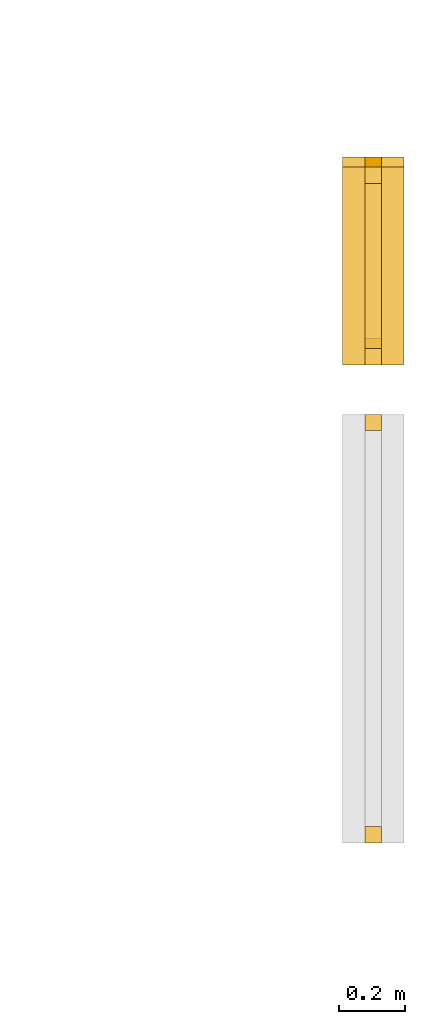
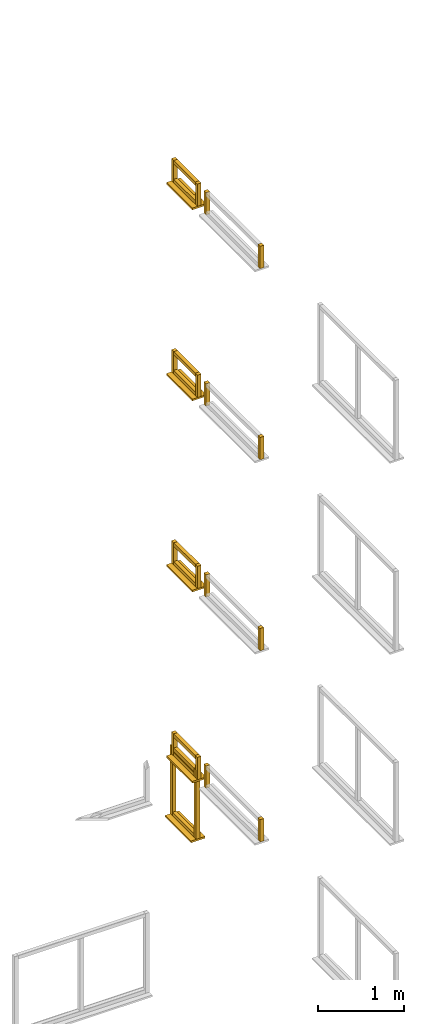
# Not in any storey, part 22 of 22: 33 windows.
"""IFC2X3 model written with IfcOpenShell, lengths in metres."""

from ifc_helpers import new_model, si_unit, frame, origin, place, context, project, faceted_brep, element, save


model = new_model("IFC2X3")

# Units and contexts
model_context = context("Model", 3, precision=1e-06, world=origin())
ifc_project = project(units=[si_unit("LENGTHUNIT", "METRE"), si_unit("PLANEANGLEUNIT", "RADIAN")], contexts=[model_context])

# Windows
placement = place(None, origin())
window_1_placement = place(placement, frame((59.736999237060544, 0.070162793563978, 1.81), z_axis=(0.0, 0.0, 1.0), x_axis=(0.0, 1.0, 0.0)))
element("IfcWindow", 1, at=window_1_placement, Name="windowSill", context=model_context, shape_type="Brep", body=[
    faceted_brep([(0.0, 0.186999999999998, 0.0), (0.6, 0.186999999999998, 0.0), (0.6, 0.0, 0.0), (0.0, 0.0, 0.0), (0.6, 0.0, 0.025), (0.6, 0.186999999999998, 0.025), (0.0, 0.186999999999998, 0.025), (0.0, 0.0, 0.025), (0.0, 0.186999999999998, 0.0), (0.0, 0.0, 0.0), (0.0, 0.0, 0.025), (0.0, 0.186999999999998, 0.025), (0.6, 0.186999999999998, 0.0), (0.0, 0.186999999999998, 0.0), (0.0, 0.186999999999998, 0.025), (0.6, 0.186999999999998, 0.025), (0.6, 0.0, 0.0), (0.6, 0.186999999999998, 0.0), (0.6, 0.186999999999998, 0.025), (0.6, 0.0, 0.025), (0.0, 0.0, 0.0), (0.6, 0.0, 0.0), (0.6, 0.0, 0.025), (0.0, 0.0, 0.025)], [[[0, 1, 2, 3]], [[4, 5, 6, 7]], [[8, 9, 10, 11]], [[12, 13, 14, 15]], [[16, 17, 18, 19]], [[20, 21, 22, 23]]]),
])
for number, where, z_axis, x_axis, name in (
    (2, (59.668499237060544, 0.620162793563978, 1.835), (0.0, 0.0, 1.0), (0.0, 1.0, 0.0), "rightFrame"),
    (3, (59.668499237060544, 0.070162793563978, 1.835), (0.0, 0.0, 1.0), (0.0, 1.0, 0.0), "leftFrame"),
):
    element("IfcWindow", number, at=place(placement, frame(where, z_axis=z_axis, x_axis=x_axis)), Name=name, context=model_context, shape_type="Brep", body=[
        faceted_brep([(0.0, 0.05, 0.0), (0.05, 0.05, 0.0), (0.05, 0.0, 0.0), (0.0, 0.0, 0.0), (0.05, 0.0, 0.315), (0.05, 0.05, 0.315), (0.0, 0.05, 0.315), (0.0, 0.0, 0.315), (0.0, 0.05, 0.0), (0.0, 0.0, 0.0), (0.0, 0.0, 0.315), (0.0, 0.05, 0.315), (0.05, 0.05, 0.0), (0.0, 0.05, 0.0), (0.0, 0.05, 0.315), (0.05, 0.05, 0.315), (0.05, 0.0, 0.0), (0.05, 0.05, 0.0), (0.05, 0.05, 0.315), (0.05, 0.0, 0.315), (0.0, 0.0, 0.0), (0.05, 0.0, 0.0), (0.05, 0.0, 0.315), (0.0, 0.0, 0.315)], [[[0, 1, 2, 3]], [[4, 5, 6, 7]], [[8, 9, 10, 11]], [[12, 13, 14, 15]], [[16, 17, 18, 19]], [[20, 21, 22, 23]]]),
    ])
for number, where, z_axis, x_axis, name in (
    (4, (59.668499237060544, 0.120162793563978, 2.1), (0.0, 0.0, 1.0), (0.0, 1.0, 0.0), "topFrame"),
    (5, (59.668499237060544, 0.120162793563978, 1.835), (0.0, 0.0, 1.0), (0.0, 1.0, 0.0), "bottomFrame"),
):
    element("IfcWindow", number, at=place(placement, frame(where, z_axis=z_axis, x_axis=x_axis)), Name=name, context=model_context, shape_type="Brep", body=[
        faceted_brep([(0.0, 0.05, 0.0), (0.5, 0.05, 0.0), (0.5, 0.0, 0.0), (0.0, 0.0, 0.0), (0.5, 0.0, 0.05), (0.5, 0.05, 0.05), (0.0, 0.05, 0.05), (0.0, 0.0, 0.05), (0.0, 0.05, 0.0), (0.0, 0.0, 0.0), (0.0, 0.0, 0.05), (0.0, 0.05, 0.05), (0.5, 0.05, 0.0), (0.0, 0.05, 0.0), (0.0, 0.05, 0.05), (0.5, 0.05, 0.05), (0.5, 0.0, 0.0), (0.5, 0.05, 0.0), (0.5, 0.05, 0.05), (0.5, 0.0, 0.05), (0.0, 0.0, 0.0), (0.5, 0.0, 0.0), (0.5, 0.0, 0.05), (0.0, 0.0, 0.05)], [[[0, 1, 2, 3]], [[4, 5, 6, 7]], [[8, 9, 10, 11]], [[12, 13, 14, 15]], [[16, 17, 18, 19]], [[20, 21, 22, 23]]]),
    ])
window_2_placement = place(placement, frame((59.736999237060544, 0.1, 0.95), z_axis=(0.0, 0.0, 1.0), x_axis=(0.0, 1.0, 0.0)))
element("IfcWindow", 6, at=window_2_placement, Name="windowSill", context=model_context, shape_type="Brep", body=[
    faceted_brep([(0.0, 0.186999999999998, 0.0), (0.6, 0.186999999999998, 0.0), (0.6, 0.0, 0.0), (0.0, 0.0, 0.0), (0.6, 0.0, 0.025), (0.6, 0.186999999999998, 0.025), (0.0, 0.186999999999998, 0.025), (0.0, 0.0, 0.025), (0.0, 0.186999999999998, 0.0), (0.0, 0.0, 0.0), (0.0, 0.0, 0.025), (0.0, 0.186999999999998, 0.025), (0.6, 0.186999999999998, 0.0), (0.0, 0.186999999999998, 0.0), (0.0, 0.186999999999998, 0.025), (0.6, 0.186999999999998, 0.025), (0.6, 0.0, 0.0), (0.6, 0.186999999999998, 0.0), (0.6, 0.186999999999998, 0.025), (0.6, 0.0, 0.025), (0.0, 0.0, 0.0), (0.6, 0.0, 0.0), (0.6, 0.0, 0.025), (0.0, 0.0, 0.025)], [[[0, 1, 2, 3]], [[4, 5, 6, 7]], [[8, 9, 10, 11]], [[12, 13, 14, 15]], [[16, 17, 18, 19]], [[20, 21, 22, 23]]]),
])
for number, where, z_axis, x_axis, name in (
    (7, (59.668499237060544, 0.65, 0.975), (0.0, 0.0, 1.0), (0.0, 1.0, 0.0), "rightFrame"),
    (8, (59.668499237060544, 0.1, 0.975), (0.0, 0.0, 1.0), (0.0, 1.0, 0.0), "leftFrame"),
):
    element("IfcWindow", number, at=place(placement, frame(where, z_axis=z_axis, x_axis=x_axis)), Name=name, context=model_context, shape_type="Brep", body=[
        faceted_brep([(0.0, 0.05, 0.0), (0.05, 0.05, 0.0), (0.05, 0.0, 0.0), (0.0, 0.0, 0.0), (0.05, 0.0, 0.975), (0.05, 0.05, 0.975), (0.0, 0.05, 0.975), (0.0, 0.0, 0.975), (0.0, 0.05, 0.0), (0.0, 0.0, 0.0), (0.0, 0.0, 0.975), (0.0, 0.05, 0.975), (0.05, 0.05, 0.0), (0.0, 0.05, 0.0), (0.0, 0.05, 0.975), (0.05, 0.05, 0.975), (0.05, 0.0, 0.0), (0.05, 0.05, 0.0), (0.05, 0.05, 0.975), (0.05, 0.0, 0.975), (0.0, 0.0, 0.0), (0.05, 0.0, 0.0), (0.05, 0.0, 0.975), (0.0, 0.0, 0.975)], [[[0, 1, 2, 3]], [[4, 5, 6, 7]], [[8, 9, 10, 11]], [[12, 13, 14, 15]], [[16, 17, 18, 19]], [[20, 21, 22, 23]]]),
    ])
for number, where, z_axis, x_axis, name in (
    (9, (59.668499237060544, 0.15, 1.9), (0.0, 0.0, 1.0), (0.0, 1.0, 0.0), "topFrame"),
    (10, (59.668499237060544, 0.15, 0.975), (0.0, 0.0, 1.0), (0.0, 1.0, 0.0), "bottomFrame"),
):
    element("IfcWindow", number, at=place(placement, frame(where, z_axis=z_axis, x_axis=x_axis)), Name=name, context=model_context, shape_type="Brep", body=[
        faceted_brep([(0.0, 0.05, 0.0), (0.5, 0.05, 0.0), (0.5, 0.0, 0.0), (0.0, 0.0, 0.0), (0.5, 0.0, 0.05), (0.5, 0.05, 0.05), (0.0, 0.05, 0.05), (0.0, 0.0, 0.05), (0.0, 0.05, 0.0), (0.0, 0.0, 0.0), (0.0, 0.0, 0.05), (0.0, 0.05, 0.05), (0.5, 0.05, 0.0), (0.0, 0.05, 0.0), (0.0, 0.05, 0.05), (0.5, 0.05, 0.05), (0.5, 0.0, 0.0), (0.5, 0.05, 0.0), (0.5, 0.05, 0.05), (0.5, 0.0, 0.05), (0.0, 0.0, 0.0), (0.5, 0.0, 0.0), (0.5, 0.0, 0.05), (0.0, 0.0, 0.05)], [[[0, 1, 2, 3]], [[4, 5, 6, 7]], [[8, 9, 10, 11]], [[12, 13, 14, 15]], [[16, 17, 18, 19]], [[20, 21, 22, 23]]]),
    ])
for number, where, z_axis, x_axis, name in (
    (11, (59.668499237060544, -1.379837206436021, 1.835), (0.0, 0.0, 1.0), (0.0, 1.0, 0.0), "leftFrame"),
    (12, (59.668499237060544, -0.129837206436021, 1.835), (0.0, 0.0, 1.0), (0.0, 1.0, 0.0), "rightFrame"),
):
    element("IfcWindow", number, at=place(placement, frame(where, z_axis=z_axis, x_axis=x_axis)), Name=name, context=model_context, shape_type="Brep", body=[
        faceted_brep([(0.0, 0.05, 0.0), (0.05, 0.05, 0.0), (0.05, 0.0, 0.0), (0.0, 0.0, 0.0), (0.05, 0.0, 0.315), (0.05, 0.05, 0.315), (0.0, 0.05, 0.315), (0.0, 0.0, 0.315), (0.0, 0.05, 0.0), (0.0, 0.0, 0.0), (0.0, 0.0, 0.315), (0.0, 0.05, 0.315), (0.05, 0.05, 0.0), (0.0, 0.05, 0.0), (0.0, 0.05, 0.315), (0.05, 0.05, 0.315), (0.05, 0.0, 0.0), (0.05, 0.05, 0.0), (0.05, 0.05, 0.315), (0.05, 0.0, 0.315), (0.0, 0.0, 0.0), (0.05, 0.0, 0.0), (0.05, 0.0, 0.315), (0.0, 0.0, 0.315)], [[[0, 1, 2, 3]], [[4, 5, 6, 7]], [[8, 9, 10, 11]], [[12, 13, 14, 15]], [[16, 17, 18, 19]], [[20, 21, 22, 23]]]),
    ])
window_3_placement = place(placement, frame((59.668499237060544, 0.120162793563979, 7.500000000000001), z_axis=(0.0, 0.0, 1.0), x_axis=(0.0, 1.0, 0.0)))
element("IfcWindow", 13, at=window_3_placement, Name="topFrame", context=model_context, shape_type="Brep", body=[
    faceted_brep([(0.0, 0.05, 0.0), (0.5, 0.05, 0.0), (0.5, 0.0, 0.0), (0.0, 0.0, 0.0), (0.5, 0.0, 0.05), (0.5, 0.05, 0.05), (0.0, 0.05, 0.05), (0.0, 0.0, 0.05), (0.0, 0.05, 0.0), (0.0, 0.0, 0.0), (0.0, 0.0, 0.05), (0.0, 0.05, 0.05), (0.5, 0.05, 0.0), (0.0, 0.05, 0.0), (0.0, 0.05, 0.05), (0.5, 0.05, 0.05), (0.5, 0.0, 0.0), (0.5, 0.05, 0.0), (0.5, 0.05, 0.05), (0.5, 0.0, 0.05), (0.0, 0.0, 0.0), (0.5, 0.0, 0.0), (0.5, 0.0, 0.05), (0.0, 0.0, 0.05)], [[[0, 1, 2, 3]], [[4, 5, 6, 7]], [[8, 9, 10, 11]], [[12, 13, 14, 15]], [[16, 17, 18, 19]], [[20, 21, 22, 23]]]),
])
window_4_placement = place(placement, frame((59.736999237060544, 0.070162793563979, 4.510000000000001), z_axis=(0.0, 0.0, 1.0), x_axis=(0.0, 1.0, 0.0)))
element("IfcWindow", 14, at=window_4_placement, Name="windowSill", context=model_context, shape_type="Brep", body=[
    faceted_brep([(0.0, 0.186999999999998, 0.0), (0.6, 0.186999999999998, 0.0), (0.6, 0.0, 0.0), (0.0, 0.0, 0.0), (0.6, 0.0, 0.025), (0.6, 0.186999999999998, 0.025), (0.0, 0.186999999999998, 0.025), (0.0, 0.0, 0.025), (0.0, 0.186999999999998, 0.0), (0.0, 0.0, 0.0), (0.0, 0.0, 0.025), (0.0, 0.186999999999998, 0.025), (0.6, 0.186999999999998, 0.0), (0.0, 0.186999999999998, 0.0), (0.0, 0.186999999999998, 0.025), (0.6, 0.186999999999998, 0.025), (0.6, 0.0, 0.0), (0.6, 0.186999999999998, 0.0), (0.6, 0.186999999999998, 0.025), (0.6, 0.0, 0.025), (0.0, 0.0, 0.0), (0.6, 0.0, 0.0), (0.6, 0.0, 0.025), (0.0, 0.0, 0.025)], [[[0, 1, 2, 3]], [[4, 5, 6, 7]], [[8, 9, 10, 11]], [[12, 13, 14, 15]], [[16, 17, 18, 19]], [[20, 21, 22, 23]]]),
])
for number, where, z_axis, x_axis, name in (
    (15, (59.668499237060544, 0.620162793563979, 4.535000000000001), (0.0, 0.0, 1.0), (0.0, 1.0, 0.0), "rightFrame"),
    (16, (59.668499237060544, 0.070162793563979, 4.535000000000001), (0.0, 0.0, 1.0), (0.0, 1.0, 0.0), "leftFrame"),
):
    element("IfcWindow", number, at=place(placement, frame(where, z_axis=z_axis, x_axis=x_axis)), Name=name, context=model_context, shape_type="Brep", body=[
        faceted_brep([(0.0, 0.05, 0.0), (0.05, 0.05, 0.0), (0.05, 0.0, 0.0), (0.0, 0.0, 0.0), (0.05, 0.0, 0.315), (0.05, 0.05, 0.315), (0.0, 0.05, 0.315), (0.0, 0.0, 0.315), (0.0, 0.05, 0.0), (0.0, 0.0, 0.0), (0.0, 0.0, 0.315), (0.0, 0.05, 0.315), (0.05, 0.05, 0.0), (0.0, 0.05, 0.0), (0.0, 0.05, 0.315), (0.05, 0.05, 0.315), (0.05, 0.0, 0.0), (0.05, 0.05, 0.0), (0.05, 0.05, 0.315), (0.05, 0.0, 0.315), (0.0, 0.0, 0.0), (0.05, 0.0, 0.0), (0.05, 0.0, 0.315), (0.0, 0.0, 0.315)], [[[0, 1, 2, 3]], [[4, 5, 6, 7]], [[8, 9, 10, 11]], [[12, 13, 14, 15]], [[16, 17, 18, 19]], [[20, 21, 22, 23]]]),
    ])
for number, where, z_axis, x_axis, name in (
    (17, (59.668499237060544, 0.120162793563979, 4.800000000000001), (0.0, 0.0, 1.0), (0.0, 1.0, 0.0), "topFrame"),
    (18, (59.668499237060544, 0.120162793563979, 4.535000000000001), (0.0, 0.0, 1.0), (0.0, 1.0, 0.0), "bottomFrame"),
):
    element("IfcWindow", number, at=place(placement, frame(where, z_axis=z_axis, x_axis=x_axis)), Name=name, context=model_context, shape_type="Brep", body=[
        faceted_brep([(0.0, 0.05, 0.0), (0.5, 0.05, 0.0), (0.5, 0.0, 0.0), (0.0, 0.0, 0.0), (0.5, 0.0, 0.05), (0.5, 0.05, 0.05), (0.0, 0.05, 0.05), (0.0, 0.0, 0.05), (0.0, 0.05, 0.0), (0.0, 0.0, 0.0), (0.0, 0.0, 0.05), (0.0, 0.05, 0.05), (0.5, 0.05, 0.0), (0.0, 0.05, 0.0), (0.0, 0.05, 0.05), (0.5, 0.05, 0.05), (0.5, 0.0, 0.0), (0.5, 0.05, 0.0), (0.5, 0.05, 0.05), (0.5, 0.0, 0.05), (0.0, 0.0, 0.0), (0.5, 0.0, 0.0), (0.5, 0.0, 0.05), (0.0, 0.0, 0.05)], [[[0, 1, 2, 3]], [[4, 5, 6, 7]], [[8, 9, 10, 11]], [[12, 13, 14, 15]], [[16, 17, 18, 19]], [[20, 21, 22, 23]]]),
    ])
for number, where, z_axis, x_axis, name in (
    (19, (59.668499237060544, -0.129837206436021, 4.535000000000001), (0.0, 0.0, 1.0), (0.0, 1.0, 0.0), "rightFrame"),
    (20, (59.668499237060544, -1.379837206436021, 4.535000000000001), (0.0, 0.0, 1.0), (0.0, 1.0, 0.0), "leftFrame"),
    (21, (59.668499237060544, -0.12983720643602, 9.935000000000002), (0.0, 0.0, 1.0), (0.0, 1.0, 0.0), "rightFrame"),
    (22, (59.668499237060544, -1.379837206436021, 9.935000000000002), (0.0, 0.0, 1.0), (0.0, 1.0, 0.0), "leftFrame"),
):
    element("IfcWindow", number, at=place(placement, frame(where, z_axis=z_axis, x_axis=x_axis)), Name=name, context=model_context, shape_type="Brep", body=[
        faceted_brep([(0.0, 0.05, 0.0), (0.05, 0.05, 0.0), (0.05, 0.0, 0.0), (0.0, 0.0, 0.0), (0.05, 0.0, 0.315), (0.05, 0.05, 0.315), (0.0, 0.05, 0.315), (0.0, 0.0, 0.315), (0.0, 0.05, 0.0), (0.0, 0.0, 0.0), (0.0, 0.0, 0.315), (0.0, 0.05, 0.315), (0.05, 0.05, 0.0), (0.0, 0.05, 0.0), (0.0, 0.05, 0.315), (0.05, 0.05, 0.315), (0.05, 0.0, 0.0), (0.05, 0.05, 0.0), (0.05, 0.05, 0.315), (0.05, 0.0, 0.315), (0.0, 0.0, 0.0), (0.05, 0.0, 0.0), (0.05, 0.0, 0.315), (0.0, 0.0, 0.315)], [[[0, 1, 2, 3]], [[4, 5, 6, 7]], [[8, 9, 10, 11]], [[12, 13, 14, 15]], [[16, 17, 18, 19]], [[20, 21, 22, 23]]]),
    ])
window_5_placement = place(placement, frame((59.736999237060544, 0.070162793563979, 9.910000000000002), z_axis=(0.0, 0.0, 1.0), x_axis=(0.0, 1.0, 0.0)))
element("IfcWindow", 23, at=window_5_placement, Name="windowSill", context=model_context, shape_type="Brep", body=[
    faceted_brep([(0.0, 0.186999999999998, 0.0), (0.6, 0.186999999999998, 0.0), (0.6, 0.0, 0.0), (0.0, 0.0, 0.0), (0.6, 0.0, 0.025), (0.6, 0.186999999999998, 0.025), (0.0, 0.186999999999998, 0.025), (0.0, 0.0, 0.025), (0.0, 0.186999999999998, 0.0), (0.0, 0.0, 0.0), (0.0, 0.0, 0.025), (0.0, 0.186999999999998, 0.025), (0.6, 0.186999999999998, 0.0), (0.0, 0.186999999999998, 0.0), (0.0, 0.186999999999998, 0.025), (0.6, 0.186999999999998, 0.025), (0.6, 0.0, 0.0), (0.6, 0.186999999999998, 0.0), (0.6, 0.186999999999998, 0.025), (0.6, 0.0, 0.025), (0.0, 0.0, 0.0), (0.6, 0.0, 0.0), (0.6, 0.0, 0.025), (0.0, 0.0, 0.025)], [[[0, 1, 2, 3]], [[4, 5, 6, 7]], [[8, 9, 10, 11]], [[12, 13, 14, 15]], [[16, 17, 18, 19]], [[20, 21, 22, 23]]]),
])
for number, where, z_axis, x_axis, name in (
    (24, (59.668499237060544, 0.620162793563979, 9.935000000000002), (0.0, 0.0, 1.0), (0.0, 1.0, 0.0), "rightFrame"),
    (25, (59.668499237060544, 0.070162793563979, 9.935000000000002), (0.0, 0.0, 1.0), (0.0, 1.0, 0.0), "leftFrame"),
):
    element("IfcWindow", number, at=place(placement, frame(where, z_axis=z_axis, x_axis=x_axis)), Name=name, context=model_context, shape_type="Brep", body=[
        faceted_brep([(0.0, 0.05, 0.0), (0.05, 0.05, 0.0), (0.05, 0.0, 0.0), (0.0, 0.0, 0.0), (0.05, 0.0, 0.315), (0.05, 0.05, 0.315), (0.0, 0.05, 0.315), (0.0, 0.0, 0.315), (0.0, 0.05, 0.0), (0.0, 0.0, 0.0), (0.0, 0.0, 0.315), (0.0, 0.05, 0.315), (0.05, 0.05, 0.0), (0.0, 0.05, 0.0), (0.0, 0.05, 0.315), (0.05, 0.05, 0.315), (0.05, 0.0, 0.0), (0.05, 0.05, 0.0), (0.05, 0.05, 0.315), (0.05, 0.0, 0.315), (0.0, 0.0, 0.0), (0.05, 0.0, 0.0), (0.05, 0.0, 0.315), (0.0, 0.0, 0.315)], [[[0, 1, 2, 3]], [[4, 5, 6, 7]], [[8, 9, 10, 11]], [[12, 13, 14, 15]], [[16, 17, 18, 19]], [[20, 21, 22, 23]]]),
    ])
for number, where, z_axis, x_axis, name in (
    (26, (59.668499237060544, 0.120162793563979, 10.200000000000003), (0.0, 0.0, 1.0), (0.0, 1.0, 0.0), "topFrame"),
    (27, (59.668499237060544, 0.120162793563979, 9.935000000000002), (0.0, 0.0, 1.0), (0.0, 1.0, 0.0), "bottomFrame"),
    (28, (59.668499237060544, 0.120162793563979, 7.235000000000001), (0.0, 0.0, 1.0), (0.0, 1.0, 0.0), "bottomFrame"),
):
    element("IfcWindow", number, at=place(placement, frame(where, z_axis=z_axis, x_axis=x_axis)), Name=name, context=model_context, shape_type="Brep", body=[
        faceted_brep([(0.0, 0.05, 0.0), (0.5, 0.05, 0.0), (0.5, 0.0, 0.0), (0.0, 0.0, 0.0), (0.5, 0.0, 0.05), (0.5, 0.05, 0.05), (0.0, 0.05, 0.05), (0.0, 0.0, 0.05), (0.0, 0.05, 0.0), (0.0, 0.0, 0.0), (0.0, 0.0, 0.05), (0.0, 0.05, 0.05), (0.5, 0.05, 0.0), (0.0, 0.05, 0.0), (0.0, 0.05, 0.05), (0.5, 0.05, 0.05), (0.5, 0.0, 0.0), (0.5, 0.05, 0.0), (0.5, 0.05, 0.05), (0.5, 0.0, 0.05), (0.0, 0.0, 0.0), (0.5, 0.0, 0.0), (0.5, 0.0, 0.05), (0.0, 0.0, 0.05)], [[[0, 1, 2, 3]], [[4, 5, 6, 7]], [[8, 9, 10, 11]], [[12, 13, 14, 15]], [[16, 17, 18, 19]], [[20, 21, 22, 23]]]),
    ])
for number, where, z_axis, x_axis, name in (
    (29, (59.668499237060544, 0.070162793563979, 7.235000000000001), (0.0, 0.0, 1.0), (0.0, 1.0, 0.0), "leftFrame"),
    (30, (59.668499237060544, 0.620162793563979, 7.235000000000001), (0.0, 0.0, 1.0), (0.0, 1.0, 0.0), "rightFrame"),
):
    element("IfcWindow", number, at=place(placement, frame(where, z_axis=z_axis, x_axis=x_axis)), Name=name, context=model_context, shape_type="Brep", body=[
        faceted_brep([(0.0, 0.05, 0.0), (0.05, 0.05, 0.0), (0.05, 0.0, 0.0), (0.0, 0.0, 0.0), (0.05, 0.0, 0.315), (0.05, 0.05, 0.315), (0.0, 0.05, 0.315), (0.0, 0.0, 0.315), (0.0, 0.05, 0.0), (0.0, 0.0, 0.0), (0.0, 0.0, 0.315), (0.0, 0.05, 0.315), (0.05, 0.05, 0.0), (0.0, 0.05, 0.0), (0.0, 0.05, 0.315), (0.05, 0.05, 0.315), (0.05, 0.0, 0.0), (0.05, 0.05, 0.0), (0.05, 0.05, 0.315), (0.05, 0.0, 0.315), (0.0, 0.0, 0.0), (0.05, 0.0, 0.0), (0.05, 0.0, 0.315), (0.0, 0.0, 0.315)], [[[0, 1, 2, 3]], [[4, 5, 6, 7]], [[8, 9, 10, 11]], [[12, 13, 14, 15]], [[16, 17, 18, 19]], [[20, 21, 22, 23]]]),
    ])
window_6_placement = place(placement, frame((59.736999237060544, 0.070162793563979, 7.210000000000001), z_axis=(0.0, 0.0, 1.0), x_axis=(0.0, 1.0, 0.0)))
element("IfcWindow", 31, at=window_6_placement, Name="windowSill", context=model_context, shape_type="Brep", body=[
    faceted_brep([(0.0, 0.186999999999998, 0.0), (0.6, 0.186999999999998, 0.0), (0.6, 0.0, 0.0), (0.0, 0.0, 0.0), (0.6, 0.0, 0.025), (0.6, 0.186999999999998, 0.025), (0.0, 0.186999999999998, 0.025), (0.0, 0.0, 0.025), (0.0, 0.186999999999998, 0.0), (0.0, 0.0, 0.0), (0.0, 0.0, 0.025), (0.0, 0.186999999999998, 0.025), (0.6, 0.186999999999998, 0.0), (0.0, 0.186999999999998, 0.0), (0.0, 0.186999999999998, 0.025), (0.6, 0.186999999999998, 0.025), (0.6, 0.0, 0.0), (0.6, 0.186999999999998, 0.0), (0.6, 0.186999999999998, 0.025), (0.6, 0.0, 0.025), (0.0, 0.0, 0.0), (0.6, 0.0, 0.0), (0.6, 0.0, 0.025), (0.0, 0.0, 0.025)], [[[0, 1, 2, 3]], [[4, 5, 6, 7]], [[8, 9, 10, 11]], [[12, 13, 14, 15]], [[16, 17, 18, 19]], [[20, 21, 22, 23]]]),
])
for number, where, z_axis, x_axis, name in (
    (32, (59.668499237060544, -1.379837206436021, 7.235000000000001), (0.0, 0.0, 1.0), (0.0, 1.0, 0.0), "leftFrame"),
    (33, (59.668499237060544, -0.12983720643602, 7.235000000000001), (0.0, 0.0, 1.0), (0.0, 1.0, 0.0), "rightFrame"),
):
    element("IfcWindow", number, at=place(placement, frame(where, z_axis=z_axis, x_axis=x_axis)), Name=name, context=model_context, shape_type="Brep", body=[
        faceted_brep([(0.0, 0.05, 0.0), (0.05, 0.05, 0.0), (0.05, 0.0, 0.0), (0.0, 0.0, 0.0), (0.05, 0.0, 0.315), (0.05, 0.05, 0.315), (0.0, 0.05, 0.315), (0.0, 0.0, 0.315), (0.0, 0.05, 0.0), (0.0, 0.0, 0.0), (0.0, 0.0, 0.315), (0.0, 0.05, 0.315), (0.05, 0.05, 0.0), (0.0, 0.05, 0.0), (0.0, 0.05, 0.315), (0.05, 0.05, 0.315), (0.05, 0.0, 0.0), (0.05, 0.05, 0.0), (0.05, 0.05, 0.315), (0.05, 0.0, 0.315), (0.0, 0.0, 0.0), (0.05, 0.0, 0.0), (0.05, 0.0, 0.315), (0.0, 0.0, 0.315)], [[[0, 1, 2, 3]], [[4, 5, 6, 7]], [[8, 9, 10, 11]], [[12, 13, 14, 15]], [[16, 17, 18, 19]], [[20, 21, 22, 23]]]),
    ])

save(model, "model.ifc")
